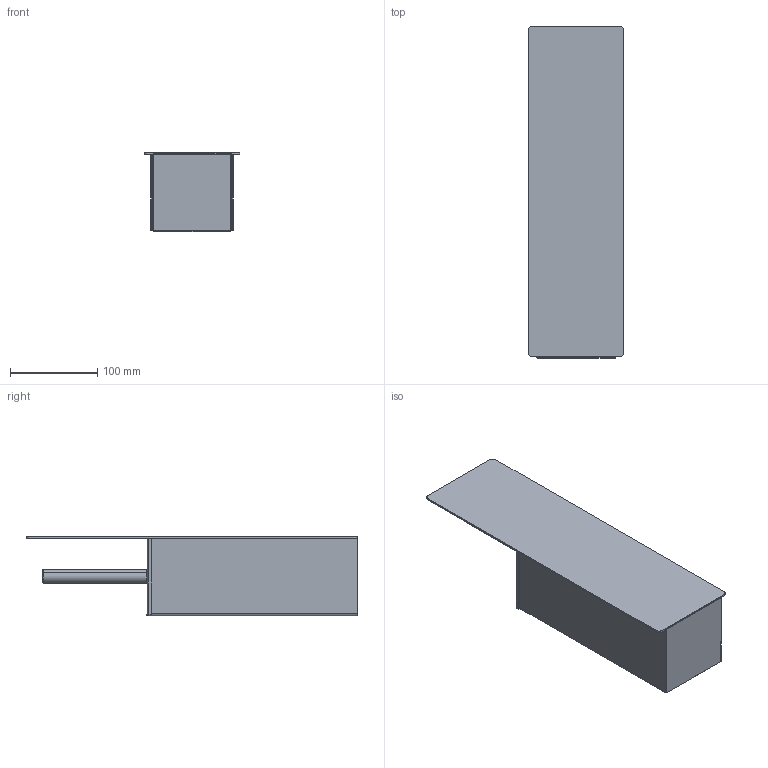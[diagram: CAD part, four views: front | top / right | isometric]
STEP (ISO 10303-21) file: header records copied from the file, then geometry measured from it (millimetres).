
FILE_DESCRIPTION (( 'STEP AP214' ), '1' );
FILE_NAME ('04-006-0380-S-00-00.STEP', '2023-08-16T11:30:34', ( '' ), ( '' ), 'SwSTEP 2.0', 'SolidWorks 2021', '' );
FILE_SCHEMA (( 'AUTOMOTIVE_DESIGN' ));
Length unit declared in the file: millimetre
Products named in the file (8): szczotka gwint m6; 04-006-0380-S-00-01; 04-006-0380-S-01-00; 04-001-0362-S-00-02; 04-006-0380-S-00-00; 04-006-0380-S-01-03; 04-006-0380-S-01-01; 04-001-0362-S-01-02
Assembly tree (7 placements, depth 3):
  04-006-0380-S-00-00
    04-006-0380-S-01-00
      04-006-0380-S-01-01
      04-006-0380-S-01-03
      04-001-0362-S-01-02
    04-006-0380-S-00-01
    04-001-0362-S-00-02
    szczotka gwint m6
Bounding box: 110 x 381 x 91 mm (x, y, z)
Volume: 482514.2 mm3; surface area: 283098.2 mm2
Topology: 6 solids, 6 shells, 140 faces, 334 edges, 205 vertices
Faces by surface type: cylinder 70, plane 55, cone 10, bspline 3, torus 2
Entity records: 7242 total; most frequent: CARTESIAN_POINT 3898, ORIENTED_EDGE 660, DIRECTION 613, EDGE_CURVE 330, AXIS2_PLACEMENT_3D 218, VERTEX_POINT 205, VECTOR 177, LINE 177
